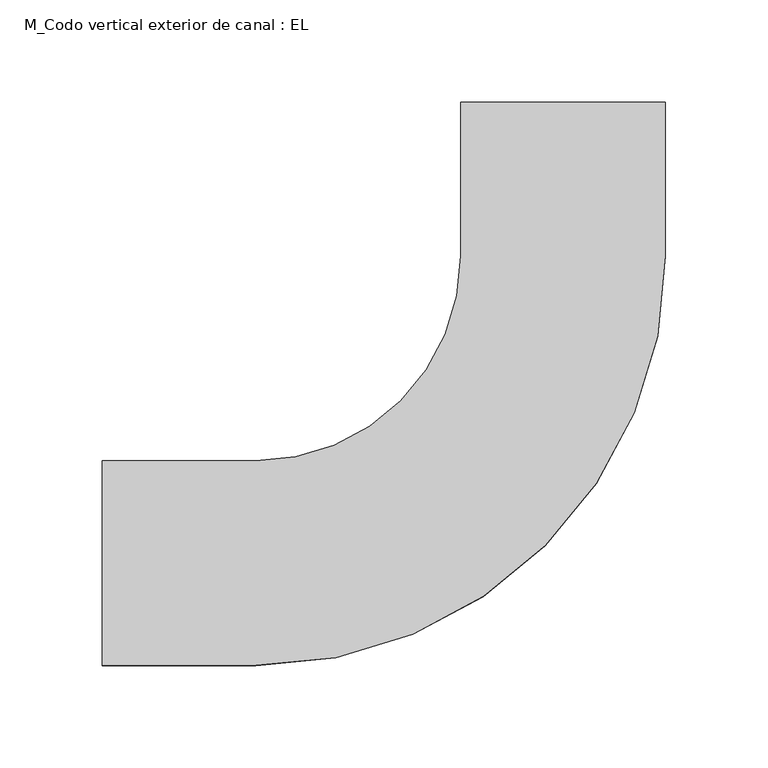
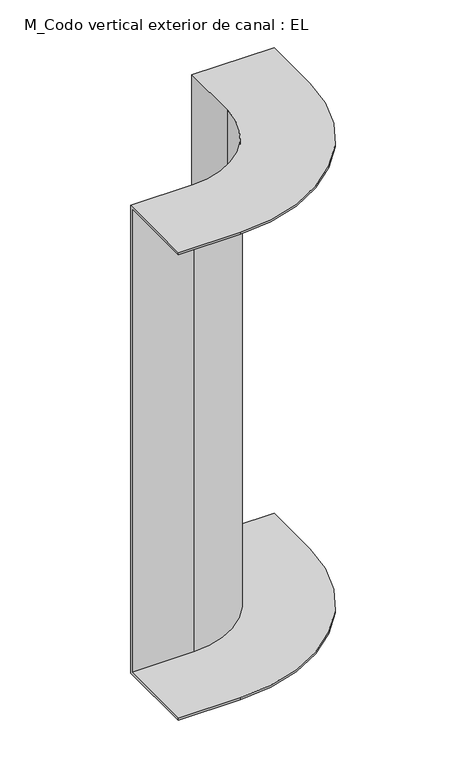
"""IFC4 building model written with IfcOpenShell, lengths in millimetres: cable carrier fitting geometry, M_Codo vertical exterior de canal : EL."""

from ifc_helpers import new_model, si_unit, frame, origin, place, context, project, spatial, polyline, circle_curve, source, transform, mapped, element, save
from ifc_brep_helpers import plane_surface, cylinder_surface, revolved_surface, advanced_brep


def m_codo_vertical_exterior_de_canal_el_de53a87f(model_context):
    return source(origin(), model_context, "Body", "AdvancedBrep", [
        advanced_brep(
        [(-225.0, -50.0, 300.0), (-225.0, 50.0, 300.0), (-225.0, 50.0, -300.0), (-225.0, -50.0, -300.0), (-225.0, -50.0, -297.46), (-225.0, 47.46, -297.46), (-225.0, 47.46, 297.46), (-225.0, -50.0, 297.46), (50.0, 225.0, 300.0), (50.0, 225.0, 297.46), (-47.46, 225.0, 297.46), (-47.46, 225.0, -297.46), (50.0, 225.0, -297.46), (50.0, 225.0, -300.0), (-50.0, 225.0, -300.0), (-50.0, 225.0, 300.0), (-150.0, -50.0, 300.0), (50.0, 150.0, 300.0), (-50.0, 150.0, 300.0), (-150.0, 50.0, 300.0), (-150.0, 50.0, -300.0), (-50.0, 150.0, -300.0), (50.0, 150.0, -300.0), (-150.0, -50.0, -300.0), (-150.0, -50.0, -297.46), (50.0, 150.0, -297.46), (-47.46, 150.0, -297.46), (-150.0, 47.46, -297.46), (-150.0, 47.46, 297.46), (-47.46, 150.0, 297.46), (50.0, 150.0, 297.46), (-150.0, -50.0, 297.46)],
        [
            (0, 1),
            (1, 2),
            (2, 3),
            (3, 4),
            (4, 5),
            (5, 6),
            (6, 7),
            (7, 0),
            (8, 9),
            (9, 10),
            (10, 11),
            (11, 12),
            (12, 13),
            (13, 14),
            (14, 15),
            (15, 8),
            (0, 16),
            (16, 17, circle_curve(frame((-150.0, 150.0, 300.0), z_axis=(0.0, 0.0, 1.0), x_axis=(0.0, -1.0, 0.0)), 200.0)),
            (17, 8),
            (15, 18),
            (18, 19, circle_curve(frame((-150.0, 150.0, 300.0), z_axis=(0.0, 0.0, -1.0), x_axis=(0.0, -1.0, 0.0)), 100.0)),
            (19, 1),
            (19, 20),
            (20, 2),
            (20, 21, circle_curve(frame((-150.0, 150.0, -300.0), z_axis=(0.0, 0.0, 1.0), x_axis=(0.0, -1.0, 0.0)), 100.0)),
            (21, 14),
            (13, 22),
            (22, 23, circle_curve(frame((-150.0, 150.0, -300.0), z_axis=(0.0, 0.0, -1.0), x_axis=(0.0, -1.0, 0.0)), 200.0)),
            (23, 3),
            (23, 24),
            (24, 4),
            (24, 25, circle_curve(frame((-150.0, 150.0, -297.46), z_axis=(0.0, 0.0, 1.0), x_axis=(0.0, -1.0, 0.0)), 200.0)),
            (25, 12),
            (11, 26),
            (26, 27, circle_curve(frame((-150.0, 150.0, -297.46), z_axis=(0.0, 0.0, -1.0), x_axis=(0.0, -1.0, 0.0)), 102.54)),
            (27, 5),
            (27, 28),
            (28, 6),
            (28, 29, circle_curve(frame((-150.0, 150.0, 297.46), z_axis=(0.0, 0.0, 1.0), x_axis=(0.0, -1.0, 0.0)), 102.54)),
            (29, 10),
            (9, 30),
            (30, 31, circle_curve(frame((-150.0, 150.0, 297.46), z_axis=(0.0, 0.0, -1.0), x_axis=(0.0, -1.0, 0.0)), 200.0)),
            (31, 7),
            (31, 16),
            (18, 21),
            (22, 25),
            (26, 29),
            (30, 17),
        ],
        [
            plane_surface(frame((-225.0, 0.0, 0.0), z_axis=(-1.0, 0.0, 0.0), x_axis=(0.0, 0.0, 1.0))),
            plane_surface(frame((0.0, 225.0, 0.0), z_axis=(0.0, 1.0, 0.0), x_axis=(0.0, 0.0, 1.0))),
            plane_surface(frame((-225.0, -50.0, 300.0), z_axis=(0.0, 0.0, 1.0), x_axis=(1.0, 0.0, 0.0))),
            plane_surface(frame((-225.0, 50.0, 300.0), z_axis=(0.0, 1.0, 0.0), x_axis=(1.0, 0.0, 0.0))),
            plane_surface(frame((-225.0, 50.0, -300.0), z_axis=(0.0, 0.0, -1.0), x_axis=(1.0, 0.0, 0.0))),
            plane_surface(frame((-225.0, -50.0, -300.0), z_axis=(0.0, -1.0, 0.0), x_axis=(1.0, 0.0, 0.0))),
            plane_surface(frame((-225.0, -50.0, -297.46), z_axis=(0.0, 0.0, 1.0), x_axis=(1.0, 0.0, 0.0))),
            plane_surface(frame((-225.0, 47.46, -297.46), z_axis=(0.0, -1.0, 0.0), x_axis=(1.0, 0.0, 0.0))),
            plane_surface(frame((-225.0, 47.46, 297.46), z_axis=(0.0, 0.0, -1.0), x_axis=(1.0, 0.0, 0.0))),
            plane_surface(frame((-225.0, -50.0, 297.46), z_axis=(0.0, -1.0, 0.0), x_axis=(1.0, 0.0, 0.0))),
            revolved_surface(polyline([(-150.0, 50.0, 300.0), (-150.0, 50.0, -300.0)]), (-150.0, 150.0, 0.0), (0.0, 0.0, 1.0)),
            cylinder_surface(frame((-150.0, 150.0, 0.0), z_axis=(0.0, 0.0, 1.0), x_axis=(0.0, -1.0, 0.0)), 200.0),
            cylinder_surface(frame((-150.0, 150.0, 0.0), z_axis=(0.0, 0.0, 1.0), x_axis=(0.0, -1.0, 0.0)), 102.54),
            plane_surface(frame((-50.0, 150.0, 300.0), z_axis=(-1.0, 0.0, 0.0), x_axis=(0.0, 1.0, 0.0))),
            plane_surface(frame((50.0, 150.0, -300.0), z_axis=(1.0, 0.0, 0.0), x_axis=(0.0, 1.0, 0.0))),
            plane_surface(frame((-47.46, 150.0, -297.46), z_axis=(1.0, 0.0, 0.0), x_axis=(0.0, 1.0, 0.0))),
            plane_surface(frame((50.0, 150.0, 297.46), z_axis=(1.0, 0.0, 0.0), x_axis=(0.0, 1.0, 0.0))),
        ],
        [
            (0, [[1, 2, 3, 4, 5, 6, 7, 8]]),
            (1, [[9, 10, 11, 12, 13, 14, 15, 16]]),
            (2, [[-1, 17, 18, 19, -16, 20, 21, 22]]),
            (3, [[-2, -22, 23, 24]]),
            (4, [[-3, -24, 25, 26, -14, 27, 28, 29]]),
            (5, [[-4, -29, 30, 31]]),
            (6, [[-5, -31, 32, 33, -12, 34, 35, 36]]),
            (7, [[-6, -36, 37, 38]]),
            (8, [[-7, -38, 39, 40, -10, 41, 42, 43]]),
            (9, [[-8, -43, 44, -17]]),
            (10, [[-25, -23, -21, 45]]),
            (11, [[-32, -30, -28, 46]]),
            (12, [[-39, -37, -35, 47]]),
            (11, [[-18, -44, -42, 48]]),
            (13, [[-45, -20, -15, -26]]),
            (14, [[-46, -27, -13, -33]]),
            (15, [[-47, -34, -11, -40]]),
            (16, [[-48, -41, -9, -19]]),
        ],
    ),
    ])


if __name__ == "__main__":
    model = new_model("IFC4")
    model_context = context("Model", 3, world=origin())
    ifc_project = project(units=[si_unit("LENGTHUNIT", "METRE", prefix="MILLI")], contexts=[model_context])
    site = spatial("IfcSite", under=ifc_project)
    building = spatial("IfcBuilding", under=site)
    placement = place(None, origin())
    m_codo_vertical_exterior_de_canal_el_shape = m_codo_vertical_exterior_de_canal_el_de53a87f(model_context)
    element("IfcCableCarrierFitting", 1, ObjectType="M_Codo vertical exterior de canal : EL", at=placement, inside=building, context=model_context, shape_type="MappedRepresentation", body=[
        mapped(m_codo_vertical_exterior_de_canal_el_shape, transform((0.0, 0.0, 0.0), x_axis=(1.0, 0.0, 0.0), y_axis=(0.0, 1.0, 0.0), z_axis=(0.0, 0.0, 1.0))),
    ])
    save(model, "model.ifc")
